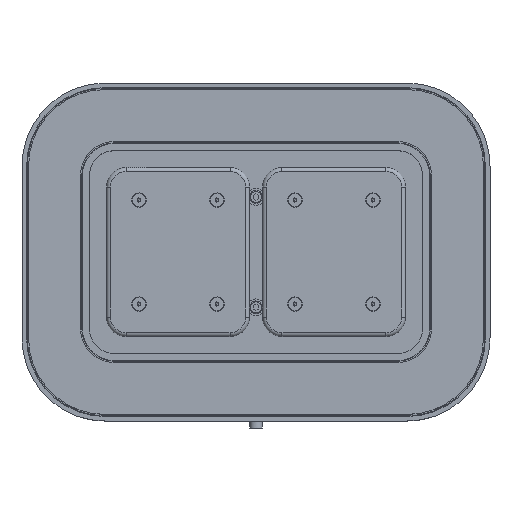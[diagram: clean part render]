
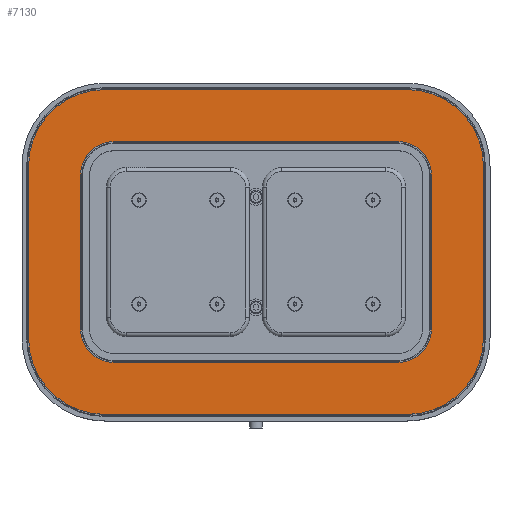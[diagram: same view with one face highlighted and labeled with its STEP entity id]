
A CAD part, top view. The second image highlights one B-rep face of the part: STEP entity #7130.
In plain terms, the highlighted planar face has unit normal (0, 0, 1).
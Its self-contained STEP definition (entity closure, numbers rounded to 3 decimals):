
#7130=ADVANCED_FACE('',(#13662,#13663),#13664,.T.);
#13662=FACE_OUTER_BOUND('',#19953,.T.);
#13663=FACE_BOUND('',#19954,.T.);
#13664=PLANE('',#19955);
#19953=EDGE_LOOP('',(#32815,#32816,#32817,#32818,#32819,#32820,#32821,#32822));
#19954=EDGE_LOOP('',(#32823,#32824,#32825,#32826,#32827,#32828,#32829,#32830));
#19955=AXIS2_PLACEMENT_3D('',#32831,#32832,#32833);
#32815=ORIENTED_EDGE('',*,*,#38643,.T.);
#32816=ORIENTED_EDGE('',*,*,#38638,.T.);
#32817=ORIENTED_EDGE('',*,*,#38644,.T.);
#32818=ORIENTED_EDGE('',*,*,#38628,.T.);
#32819=ORIENTED_EDGE('',*,*,#38645,.T.);
#32820=ORIENTED_EDGE('',*,*,#38633,.T.);
#32821=ORIENTED_EDGE('',*,*,#38646,.T.);
#32822=ORIENTED_EDGE('',*,*,#38647,.T.);
#32823=ORIENTED_EDGE('',*,*,#38648,.T.);
#32824=ORIENTED_EDGE('',*,*,#38649,.T.);
#32825=ORIENTED_EDGE('',*,*,#38650,.T.);
#32826=ORIENTED_EDGE('',*,*,#38651,.T.);
#32827=ORIENTED_EDGE('',*,*,#38652,.T.);
#32828=ORIENTED_EDGE('',*,*,#38653,.T.);
#32829=ORIENTED_EDGE('',*,*,#38654,.T.);
#32830=ORIENTED_EDGE('',*,*,#38655,.T.);
#32831=CARTESIAN_POINT('',(-221.343,-131.459,30.0));
#32832=DIRECTION('',(0.0,0.0,1.0));
#32833=DIRECTION('',(1.0,0.0,0.0));
#38628=EDGE_CURVE('',#45747,#45748,#45749,.T.);
#38633=EDGE_CURVE('',#45756,#45757,#45758,.T.);
#38638=EDGE_CURVE('',#45765,#45766,#45767,.T.);
#38643=EDGE_CURVE('',#45774,#45765,#45775,.T.);
#38644=EDGE_CURVE('',#45766,#45747,#45776,.T.);
#38645=EDGE_CURVE('',#45748,#45756,#45777,.T.);
#38646=EDGE_CURVE('',#45757,#45778,#45779,.T.);
#38647=EDGE_CURVE('',#45778,#45774,#45780,.T.);
#38648=EDGE_CURVE('',#45781,#45782,#45783,.T.);
#38649=EDGE_CURVE('',#45782,#45784,#45785,.F.);
#38650=EDGE_CURVE('',#45784,#45786,#45787,.T.);
#38651=EDGE_CURVE('',#45786,#45788,#45789,.F.);
#38652=EDGE_CURVE('',#45788,#45790,#45791,.T.);
#38653=EDGE_CURVE('',#45790,#45792,#45793,.F.);
#38654=EDGE_CURVE('',#45792,#45794,#45795,.T.);
#38655=EDGE_CURVE('',#45794,#45781,#45796,.F.);
#45747=VERTEX_POINT('',#55529);
#45748=VERTEX_POINT('',#55530);
#45749=CIRCLE('',#55531,59.0);
#45756=VERTEX_POINT('',#55540);
#45757=VERTEX_POINT('',#55541);
#45758=CIRCLE('',#55542,59.0);
#45765=VERTEX_POINT('',#55551);
#45766=VERTEX_POINT('',#55552);
#45767=CIRCLE('',#55553,59.0);
#45774=VERTEX_POINT('',#55562);
#45775=LINE('',#55563,#55564);
#45776=LINE('',#55565,#55566);
#45777=LINE('',#55567,#55568);
#45778=VERTEX_POINT('',#55569);
#45779=LINE('',#55570,#55571);
#45780=CIRCLE('',#55572,59.0);
#45781=VERTEX_POINT('',#55573);
#45782=VERTEX_POINT('',#55574);
#45783=LINE('',#55575,#55576);
#45784=VERTEX_POINT('',#55577);
#45785=CIRCLE('',#55578,26.0);
#45786=VERTEX_POINT('',#55579);
#45787=LINE('',#55580,#55581);
#45788=VERTEX_POINT('',#55582);
#45789=CIRCLE('',#55583,26.0);
#45790=VERTEX_POINT('',#55584);
#45791=LINE('',#55585,#55586);
#45792=VERTEX_POINT('',#55587);
#45793=CIRCLE('',#55588,26.0);
#45794=VERTEX_POINT('',#55589);
#45795=LINE('',#55590,#55591);
#45796=CIRCLE('',#55592,26.0);
#55529=CARTESIAN_POINT('',(128.657,59.541,30.0));
#55530=CARTESIAN_POINT('',(69.657,118.541,30.0));
#55531=AXIS2_PLACEMENT_3D('',#61607,#61608,#61609);
#55540=CARTESIAN_POINT('',(-162.343,118.541,30.0));
#55541=CARTESIAN_POINT('',(-221.343,59.541,30.0));
#55542=AXIS2_PLACEMENT_3D('',#61615,#61616,#61617);
#55551=CARTESIAN_POINT('',(69.657,-131.459,30.0));
#55552=CARTESIAN_POINT('',(128.657,-72.459,30.0));
#55553=AXIS2_PLACEMENT_3D('',#61623,#61624,#61625);
#55562=CARTESIAN_POINT('',(-162.343,-131.459,30.0));
#55563=CARTESIAN_POINT('',(-221.343,-131.459,30.0));
#55564=VECTOR('',#61631,1.0);
#55565=CARTESIAN_POINT('',(128.657,-131.459,30.0));
#55566=VECTOR('',#61632,1.0);
#55567=CARTESIAN_POINT('',(128.657,118.541,30.0));
#55568=VECTOR('',#61633,1.0);
#55569=CARTESIAN_POINT('',(-221.343,-72.459,30.0));
#55570=CARTESIAN_POINT('',(-221.343,118.541,30.0));
#55571=VECTOR('',#61634,1.0);
#55572=AXIS2_PLACEMENT_3D('',#61635,#61636,#61637);
#55573=CARTESIAN_POINT('',(88.657,52.541,30.));
#55574=CARTESIAN_POINT('',(88.657,-65.459,30.));
#55575=CARTESIAN_POINT('',(88.657,78.541,30.));
#55576=VECTOR('',#61638,1.0);
#55577=CARTESIAN_POINT('',(62.657,-91.459,30.));
#55578=AXIS2_PLACEMENT_3D('',#61639,#61640,#61641);
#55579=CARTESIAN_POINT('',(-155.343,-91.459,30.));
#55580=CARTESIAN_POINT('',(88.657,-91.459,30.));
#55581=VECTOR('',#61642,1.0);
#55582=CARTESIAN_POINT('',(-181.343,-65.459,30.));
#55583=AXIS2_PLACEMENT_3D('',#61643,#61644,#61645);
#55584=CARTESIAN_POINT('',(-181.343,52.541,30.));
#55585=CARTESIAN_POINT('',(-181.343,-91.459,30.));
#55586=VECTOR('',#61646,1.0);
#55587=CARTESIAN_POINT('',(-155.343,78.541,30.));
#55588=AXIS2_PLACEMENT_3D('',#61647,#61648,#61649);
#55589=CARTESIAN_POINT('',(62.657,78.541,30.));
#55590=CARTESIAN_POINT('',(-181.343,78.541,30.));
#55591=VECTOR('',#61650,1.0);
#55592=AXIS2_PLACEMENT_3D('',#61651,#61652,#61653);
#61607=CARTESIAN_POINT('',(69.657,59.541,30.0));
#61608=DIRECTION('',(0.0,0.0,1.0));
#61609=DIRECTION('',(1.0,0.0,0.0));
#61615=CARTESIAN_POINT('',(-162.343,59.541,30.0));
#61616=DIRECTION('',(0.0,0.0,1.0));
#61617=DIRECTION('',(1.0,0.0,0.0));
#61623=CARTESIAN_POINT('',(69.657,-72.459,30.0));
#61624=DIRECTION('',(0.0,0.0,1.0));
#61625=DIRECTION('',(1.0,0.0,0.0));
#61631=DIRECTION('',(1.0,0.0,0.0));
#61632=DIRECTION('',(0.0,1.0,0.0));
#61633=DIRECTION('',(-1.0,0.0,0.0));
#61634=DIRECTION('',(0.0,-1.0,0.0));
#61635=CARTESIAN_POINT('',(-162.343,-72.459,30.0));
#61636=DIRECTION('',(0.0,0.0,1.0));
#61637=DIRECTION('',(1.0,0.0,0.0));
#61638=DIRECTION('',(0.0,-1.0,0.0));
#61639=CARTESIAN_POINT('',(62.657,-65.459,30.0));
#61640=DIRECTION('',(0.0,0.0,1.0));
#61641=DIRECTION('',(1.0,0.0,0.0));
#61642=DIRECTION('',(-1.0,0.0,0.0));
#61643=CARTESIAN_POINT('',(-155.343,-65.459,30.0));
#61644=DIRECTION('',(0.0,0.0,1.0));
#61645=DIRECTION('',(1.0,0.0,0.0));
#61646=DIRECTION('',(0.0,1.0,0.0));
#61647=CARTESIAN_POINT('',(-155.343,52.541,30.0));
#61648=DIRECTION('',(0.0,0.0,1.0));
#61649=DIRECTION('',(1.0,0.0,0.0));
#61650=DIRECTION('',(1.0,0.0,0.0));
#61651=CARTESIAN_POINT('',(62.657,52.541,30.0));
#61652=DIRECTION('',(0.0,0.0,1.0));
#61653=DIRECTION('',(1.0,0.0,0.0));
